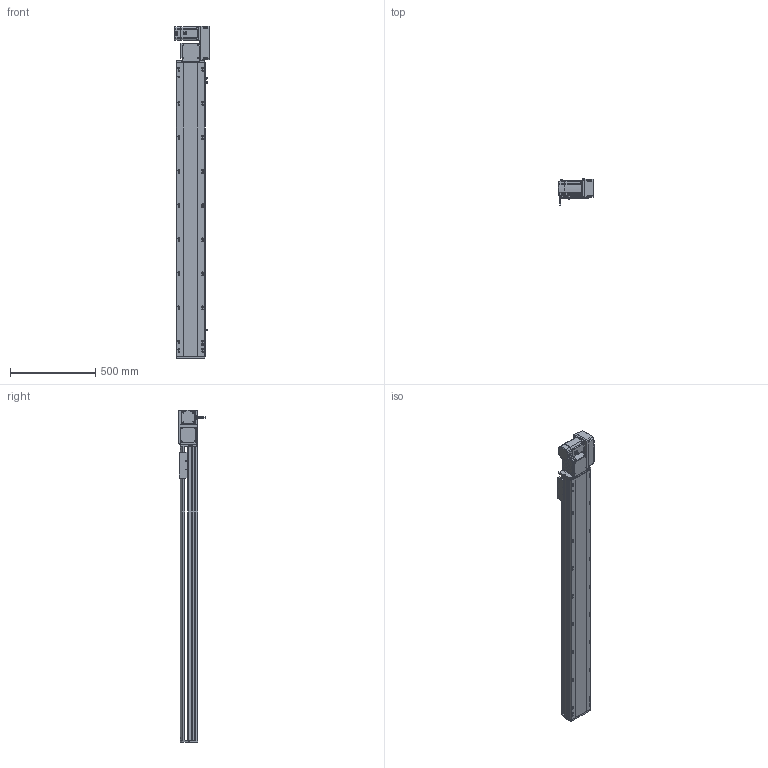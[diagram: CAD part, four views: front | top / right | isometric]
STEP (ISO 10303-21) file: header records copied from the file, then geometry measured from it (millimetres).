
FILE_DESCRIPTION (( 'STEP AP214' ), '1' );
FILE_NAME ('RTB17S-XX-1450-R-M75-C4.STEP', '2025-12-12T01:38:08', ( '' ), ( '' ), 'SwSTEP 2.0', 'SolidWorks 2018', '' );
FILE_SCHEMA (( 'AUTOMOTIVE_DESIGN' ));
Length unit declared in the file: millimetre
Products named in the file (15): RTB22S-GY-005P^RTB17S-R-々湍釱蚾饜-750W_RTB17S-XX-XX-R-M75-C4; RTB22S-GY-017P^RTB17S-R-々湍釱蚾饜-750W_RTB17S-XX-XX-R-M75-C4; EE672^RTB17S-XX-XX-R-M75-C4; RTB17-R-011菁釱^RTB17S-XX-XX-R-M75-C4; RTB17S-L-004-賑釱^RTB17S-賑釱_RTB17S-XX-XX-R-M75-C4; 750W萇儂^RTB17S-XX-XX-R-M75-C4; RTB17S-L-001-耜醱啣^RTB17S-XX-XX-R-M75-C4; RTB17S-L-007奻裔^RTB17S-XX-XX-R-M75-C4; RTB17S-L-014-T20-P75--々湍釱^RTB17S-R-々湍釱蚾饜-750W_RTB17S-XX-XX-R-M75-C4; RTB22S-GY-008-M75--萇儂啣^RTB17S-R-々湍釱蚾饜-750W_RTB17S-XX-XX-R-M75-C4; RTB17S-XX-1450-R-M75-C4; RTB17S-R-々湍釱蚾饜-750W^RTB17S-XX-XX-R-M75-C4; RTH13-BL-012覜茼え俋离^RTB17S-賑釱_RTB17S-XX-XX-R-M75-C4; RTB22S-GY-018P^RTB17S-R-々湍釱蚾饜-750W_RTB17S-XX-XX-R-M75-C4; RTB17S-賑釱^RTB17S-XX-XX-R-M75-C4
Assembly tree (17 placements, depth 3):
  RTB17S-XX-1450-R-M75-C4
    RTB17-R-011菁釱^RTB17S-XX-XX-R-M75-C4
    EE672^RTB17S-XX-XX-R-M75-C4  x3
    RTB17S-L-001-耜醱啣^RTB17S-XX-XX-R-M75-C4
    RTB17S-賑釱^RTB17S-XX-XX-R-M75-C4
      RTB17S-L-004-賑釱^RTB17S-賑釱_RTB17S-XX-XX-R-M75-C4
      RTH13-BL-012覜茼え俋离^RTB17S-賑釱_RTB17S-XX-XX-R-M75-C4
    RTB17S-L-007奻裔^RTB17S-XX-XX-R-M75-C4
    750W萇儂^RTB17S-XX-XX-R-M75-C4
    RTB17S-R-々湍釱蚾饜-750W^RTB17S-XX-XX-R-M75-C4
      RTB17S-L-014-T20-P75--々湍釱^RTB17S-R-々湍釱蚾饜-750W_RTB17S-XX-XX-R-M75-C4
      RTB22S-GY-005P^RTB17S-R-々湍釱蚾饜-750W_RTB17S-XX-XX-R-M75-C4
      RTB22S-GY-017P^RTB17S-R-々湍釱蚾饜-750W_RTB17S-XX-XX-R-M75-C4  x2
      RTB22S-GY-008-M75--萇儂啣^RTB17S-R-々湍釱蚾饜-750W_RTB17S-XX-XX-R-M75-C4
      RTB22S-GY-018P^RTB17S-R-々湍釱蚾饜-750W_RTB17S-XX-XX-R-M75-C4
Bounding box: 207.4 x 152.7 x 1949 mm (x, y, z)
Volume: 15008918.3 mm3; surface area: 2625465.8 mm2
Topology: 17 solids, 17 shells, 2137 faces, 5944 edges, 3842 vertices
Faces by surface type: plane 976, cylinder 745, bspline 294, cone 110, sphere 8, torus 4
Entity records: 60406 total; most frequent: CARTESIAN_POINT 17808, ORIENTED_EDGE 8732, DIRECTION 8132, EDGE_CURVE 4366, AXIS2_PLACEMENT_3D 2862, VERTEX_POINT 2846, LINE 2408, VECTOR 2408
